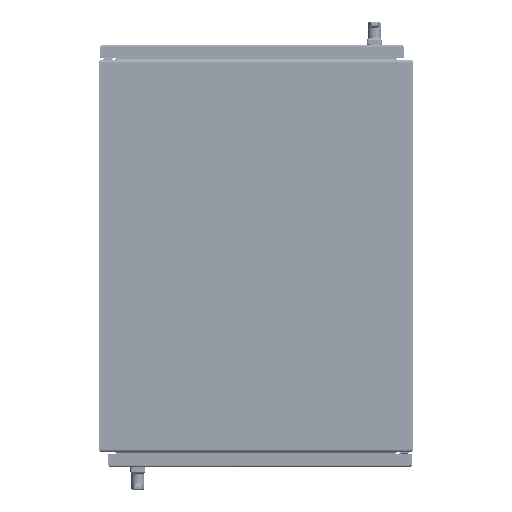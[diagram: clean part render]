
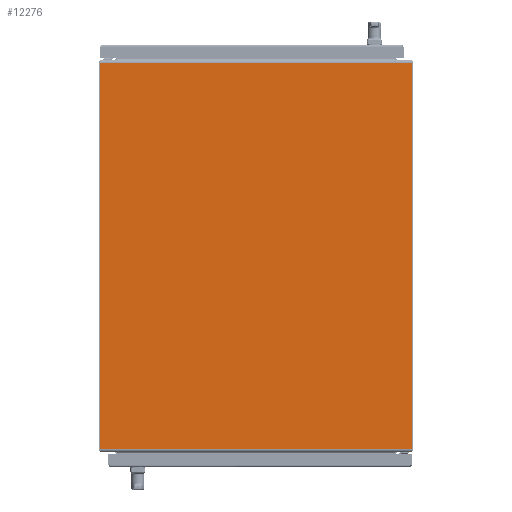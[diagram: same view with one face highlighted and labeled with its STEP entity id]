
A CAD part, front view. The second image highlights one B-rep face of the part: STEP entity #12276.
In plain terms, the highlighted planar face has unit normal (0, -1, 0).
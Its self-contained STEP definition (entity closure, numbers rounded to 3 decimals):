
#6462 = EDGE_LOOP ( 'NONE', ( #29491, #29492, #29493, #29494 ) ) ;
#12276 = ADVANCED_FACE ( 'NONE', ( #53288 ), #52851, .T. ) ;
#23521 = VERTEX_POINT ( 'NONE', #88583 ) ;
#23523 = VERTEX_POINT ( 'NONE', #88584 ) ;
#23529 = VERTEX_POINT ( 'NONE', #88587 ) ;
#23533 = VERTEX_POINT ( 'NONE', #88589 ) ;
#29491 = ORIENTED_EDGE ( 'NONE', *, *, #70969, .F. ) ;
#29492 = ORIENTED_EDGE ( 'NONE', *, *, #70972, .T. ) ;
#29493 = ORIENTED_EDGE ( 'NONE', *, *, #70975, .F. ) ;
#29494 = ORIENTED_EDGE ( 'NONE', *, *, #70976, .T. ) ;
#52846 = CARTESIAN_POINT ( 'NONE',  ( -11.917, 0., 0. ) ) ;
#52851 = PLANE ( 'NONE',  #55768 ) ;
#52856 = DIRECTION ( 'NONE',  ( 0., -1., 0. ) ) ;
#52857 = DIRECTION ( 'NONE',  ( 0., 0., -1. ) ) ;
#53288 = FACE_OUTER_BOUND ( 'NONE', #6462, .T. ) ;
#55768 = AXIS2_PLACEMENT_3D ( 'NONE', #52846, #52856, #52857 ) ;
#64248 = CARTESIAN_POINT ( 'NONE',  ( -11.917, 0., 30.062 ) ) ;
#64249 = DIRECTION ( 'NONE',  ( 0., 0., 1. ) ) ;
#64250 = CARTESIAN_POINT ( 'NONE',  ( -11.917, 0., 0.207 ) ) ;
#64255 = DIRECTION ( 'NONE',  ( 1., 0., 0. ) ) ;
#64256 = CARTESIAN_POINT ( 'NONE',  ( 11.917, 0., 30.062 ) ) ;
#64262 = DIRECTION ( 'NONE',  ( 0., 0., -1. ) ) ;
#64263 = CARTESIAN_POINT ( 'NONE',  ( 11.917, 0., 29.855 ) ) ;
#64264 = DIRECTION ( 'NONE',  ( -1., 0., 0. ) ) ;
#70969 = EDGE_CURVE ( 'NONE', #23521, #23523, #98790, .T. ) ;
#70972 = EDGE_CURVE ( 'NONE', #23521, #23529, #98784, .T. ) ;
#70975 = EDGE_CURVE ( 'NONE', #23533, #23529, #98796, .T. ) ;
#70976 = EDGE_CURVE ( 'NONE', #23533, #23523, #98815, .T. ) ;
#88583 = CARTESIAN_POINT ( 'NONE',  ( -11.917, 0., 0.207 ) ) ;
#88584 = CARTESIAN_POINT ( 'NONE',  ( -11.917, 0., 29.855 ) ) ;
#88587 = CARTESIAN_POINT ( 'NONE',  ( 11.917, 0., 0.207 ) ) ;
#88589 = CARTESIAN_POINT ( 'NONE',  ( 11.917, 0., 29.855 ) ) ;
#98784 = LINE ( 'NONE', #64250, #98800 ) ;
#98790 = LINE ( 'NONE', #64248, #98792 ) ;
#98792 = VECTOR ( 'NONE', #64249, 39.37 ) ;
#98796 = LINE ( 'NONE', #64256, #98811 ) ;
#98800 = VECTOR ( 'NONE', #64255, 39.37 ) ;
#98811 = VECTOR ( 'NONE', #64262, 39.37 ) ;
#98815 = LINE ( 'NONE', #64263, #98817 ) ;
#98817 = VECTOR ( 'NONE', #64264, 39.37 ) ;
